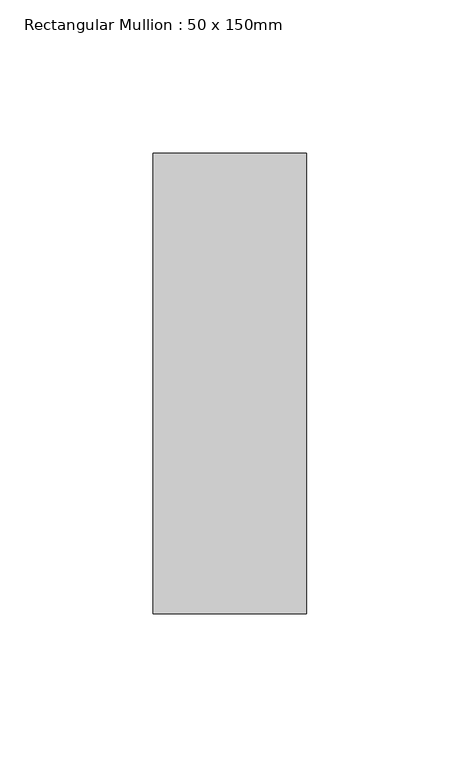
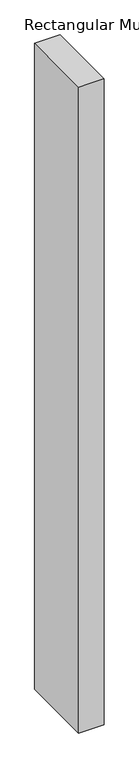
"""IFC4 building model written with IfcOpenShell, lengths in millimetres: member geometry, Rectangular Mullion : 50 x 150mm."""

from ifc_helpers import new_model, si_unit, frame, origin, place, context, project, spatial, polyline, outline, extrude, source, transform, mapped, element, save


def rectangular_mullion_50_x_150mm_61b60c0f(model_context):
    return source(origin(), model_context, "Body", "SweptSolid", [
        extrude(outline(polyline([(0.0, 0.0), (-0.0785595, -50.0), (-1344.6694581, -50.0), (-1344.7072837, 0.0), (0.0, 0.0)])), frame((0.0, -75.0, 0.0), z_axis=(0.0, 1.0, 0.0), x_axis=(0.0, 0.0, 1.0)), (0.0, 0.0, 1.0), 150.0),
    ])


if __name__ == "__main__":
    model = new_model("IFC4")
    model_context = context("Model", 3, world=origin())
    ifc_project = project(units=[si_unit("LENGTHUNIT", "METRE", prefix="MILLI")], contexts=[model_context])
    site = spatial("IfcSite", under=ifc_project)
    building = spatial("IfcBuilding", under=site)
    placement = place(None, origin())
    rectangular_mullion_50_x_150mm_shape = rectangular_mullion_50_x_150mm_61b60c0f(model_context)
    element("IfcMember", 1, ObjectType="Rectangular Mullion : 50 x 150mm", at=placement, inside=building, context=model_context, shape_type="MappedRepresentation", body=[
        mapped(rectangular_mullion_50_x_150mm_shape, transform((0.0, 0.0, 0.0), x_axis=(1.0, 0.0, 0.0), y_axis=(0.0, 1.0, 0.0), z_axis=(0.0, 0.0, 1.0))),
    ])
    save(model, "model.ifc")
